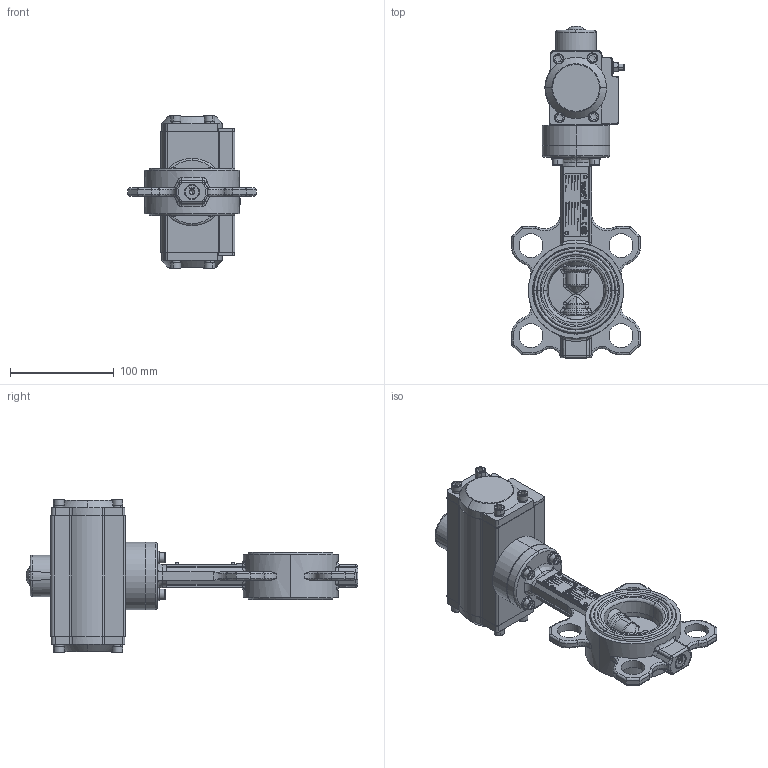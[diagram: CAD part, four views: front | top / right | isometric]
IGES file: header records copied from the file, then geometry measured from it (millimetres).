
Start section: SolidWorks IGES file using NURBS representation for surfaces
Global section: file name: H:\BE BIBLIOTHEQUE 3D\VPN-03 PNEUMATIC ACTUATOR (DN40 à 300)\VPN-03 DN50\VPN-03 DN50.IGS; native system: SolidWorks 2011; preprocessor: SolidWorks 2011; author: a.cartier; date: 140620.093029; units: millimetre
Bounding box: 124 x 320.52 x 148.56 mm (x, y, z)
Volume: 770267 mm3; surface area: 265774.2 mm2
Topology: 69 solids, 69 shells, 4716 faces, 11707 edges, 7562 vertices
Faces by surface type: bspline 4716
